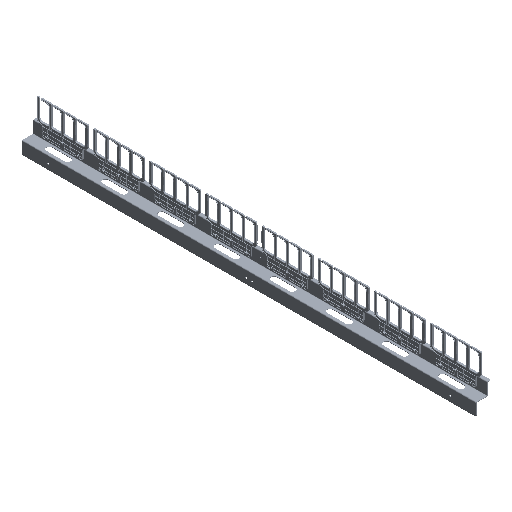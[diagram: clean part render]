
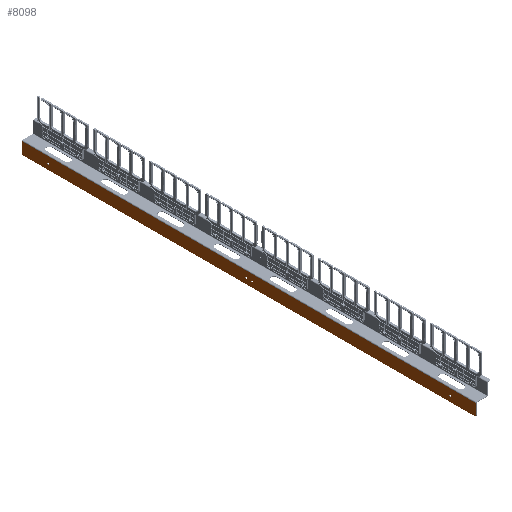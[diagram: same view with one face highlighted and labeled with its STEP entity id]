
A CAD part, isometric view. The second image highlights one B-rep face of the part: STEP entity #8098.
In plain terms, the highlighted free-form (B-spline) face has degree [1, 1] with [2, 2] control points.
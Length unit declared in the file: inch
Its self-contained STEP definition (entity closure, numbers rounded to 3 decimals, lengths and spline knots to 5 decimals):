
#550=CARTESIAN_POINT('V315',(-0.072,0.,
   0.25));
#551=VERTEX_POINT('V315',#550);
#557=CARTESIAN_POINT('V313',(-0.072,0.25,
   0.0));
#558=VERTEX_POINT('V313',#557);
#559=CARTESIAN_POINT('E483',(-0.072,0.25,
   0.0));
#560=CARTESIAN_POINT('E483',(-0.072,0.,
   0.));
#561=CARTESIAN_POINT('E483',(-0.072,0.,
   0.25));
#569=(BOUNDED_CURVE()B_SPLINE_CURVE(2,(#559,#560,#561),
   .CIRCULAR_ARC.,.F.,.U.)B_SPLINE_CURVE_WITH_KNOTS((3,3),(0.0,
   5.45415),.UNSPECIFIED.)CURVE()
   GEOMETRIC_REPRESENTATION_ITEM()RATIONAL_B_SPLINE_CURVE((1.0,
   0.707,1.0))REPRESENTATION_ITEM('E483'));
#570=EDGE_CURVE('E483',#558,#551,#569,.T.);
#672=CARTESIAN_POINT('V307',(-0.072,0.25,
   74.465));
#673=VERTEX_POINT('V307',#672);
#679=CARTESIAN_POINT('V305',(-0.072,0.,
   74.215));
#680=VERTEX_POINT('V305',#679);
#681=CARTESIAN_POINT('E463',(-0.072,0.,
   74.215));
#682=CARTESIAN_POINT('E463',(-0.072,0.,
   74.465));
#683=CARTESIAN_POINT('E463',(-0.072,0.25,
   74.465));
#691=(BOUNDED_CURVE()B_SPLINE_CURVE(2,(#681,#682,#683),
   .CIRCULAR_ARC.,.F.,.U.)B_SPLINE_CURVE_WITH_KNOTS((3,3),(0.0,
   5.45415),.UNSPECIFIED.)CURVE()
   GEOMETRIC_REPRESENTATION_ITEM()RATIONAL_B_SPLINE_CURVE((1.0,
   0.707,1.0))REPRESENTATION_ITEM('E463'));
#692=EDGE_CURVE('E463',#680,#673,#691,.T.);
#7785=CARTESIAN_POINT('V302',(-0.072,0.747,
   36.74075));
#7786=VERTEX_POINT('V302',#7785);
#7792=CARTESIAN_POINT('E314',(-0.072,0.747,
   36.74075));
#7793=CARTESIAN_POINT('E314',(-0.072,0.747,
   36.51905));
#7794=CARTESIAN_POINT('E314',(-0.072,0.939,
   36.6299));
#7795=CARTESIAN_POINT('E314',(-0.072,1.131,
   36.74075));
#7796=CARTESIAN_POINT('E314',(-0.072,0.939,
   36.8516));
#7797=CARTESIAN_POINT('E314',(-0.072,0.747,
   36.96245));
#7798=CARTESIAN_POINT('E314',(-0.072,0.747,
   36.74075));
#7806=(BOUNDED_CURVE()B_SPLINE_CURVE(2,(#7792,#7793,#7794,#7795,
   #7796,#7797,#7798),.CIRCULAR_ARC.,.T.,.U.)
   B_SPLINE_CURVE_WITH_KNOTS((3,2,2,3),(0.0,0.33333,
   0.66667,1.0),.UNSPECIFIED.)CURVE()
   GEOMETRIC_REPRESENTATION_ITEM()RATIONAL_B_SPLINE_CURVE((1.0,
   0.5,1.0,0.5,1.0,0.5,1.0)
   )REPRESENTATION_ITEM('E314'));
#7807=EDGE_CURVE('E314',#7786,#7786,#7806,.T.);
#7854=CARTESIAN_POINT('V301',(-0.072,0.747,
   4.26));
#7855=VERTEX_POINT('V301',#7854);
#7861=CARTESIAN_POINT('E313',(-0.072,0.747,
   4.26));
#7862=CARTESIAN_POINT('E313',(-0.072,0.747,
   4.0383));
#7863=CARTESIAN_POINT('E313',(-0.072,0.939,
   4.14915));
#7864=CARTESIAN_POINT('E313',(-0.072,1.131,
   4.26));
#7865=CARTESIAN_POINT('E313',(-0.072,0.939,
   4.37085));
#7866=CARTESIAN_POINT('E313',(-0.072,0.747,
   4.4817));
#7867=CARTESIAN_POINT('E313',(-0.072,0.747,
   4.26));
#7875=(BOUNDED_CURVE()B_SPLINE_CURVE(2,(#7861,#7862,#7863,#7864,
   #7865,#7866,#7867),.CIRCULAR_ARC.,.T.,.U.)
   B_SPLINE_CURVE_WITH_KNOTS((3,2,2,3),(0.0,0.33333,
   0.66667,1.0),.UNSPECIFIED.)CURVE()
   GEOMETRIC_REPRESENTATION_ITEM()RATIONAL_B_SPLINE_CURVE((1.0,
   0.5,1.0,0.5,1.0,0.5,1.0)
   )REPRESENTATION_ITEM('E313'));
#7876=EDGE_CURVE('E313',#7855,#7855,#7875,.T.);
#7923=CARTESIAN_POINT('V300',(-0.072,0.747,
   37.725));
#7924=VERTEX_POINT('V300',#7923);
#7930=CARTESIAN_POINT('E312',(-0.072,0.747,
   37.725));
#7931=CARTESIAN_POINT('E312',(-0.072,0.747,
   37.5033));
#7932=CARTESIAN_POINT('E312',(-0.072,0.939,
   37.61415));
#7933=CARTESIAN_POINT('E312',(-0.072,1.131,
   37.725));
#7934=CARTESIAN_POINT('E312',(-0.072,0.939,
   37.83585));
#7935=CARTESIAN_POINT('E312',(-0.072,0.747,
   37.9467));
#7936=CARTESIAN_POINT('E312',(-0.072,0.747,
   37.725));
#7944=(BOUNDED_CURVE()B_SPLINE_CURVE(2,(#7930,#7931,#7932,#7933,
   #7934,#7935,#7936),.CIRCULAR_ARC.,.T.,.U.)
   B_SPLINE_CURVE_WITH_KNOTS((3,2,2,3),(0.0,0.33333,
   0.66667,1.0),.UNSPECIFIED.)CURVE()
   GEOMETRIC_REPRESENTATION_ITEM()RATIONAL_B_SPLINE_CURVE((1.0,
   0.5,1.0,0.5,1.0,0.5,1.0)
   )REPRESENTATION_ITEM('E312'));
#7945=EDGE_CURVE('E312',#7924,#7924,#7944,.T.);
#7992=CARTESIAN_POINT('V299',(-0.072,0.747,
   70.205));
#7993=VERTEX_POINT('V299',#7992);
#7999=CARTESIAN_POINT('E311',(-0.072,0.747,
   70.205));
#8000=CARTESIAN_POINT('E311',(-0.072,0.747,
   69.9833));
#8001=CARTESIAN_POINT('E311',(-0.072,0.939,
   70.09415));
#8002=CARTESIAN_POINT('E311',(-0.072,1.131,
   70.205));
#8003=CARTESIAN_POINT('E311',(-0.072,0.939,
   70.31585));
#8004=CARTESIAN_POINT('E311',(-0.072,0.747,
   70.4267));
#8005=CARTESIAN_POINT('E311',(-0.072,0.747,
   70.205));
#8013=(BOUNDED_CURVE()B_SPLINE_CURVE(2,(#7999,#8000,#8001,#8002,
   #8003,#8004,#8005),.CIRCULAR_ARC.,.T.,.U.)
   B_SPLINE_CURVE_WITH_KNOTS((3,2,2,3),(0.0,0.33333,
   0.66667,1.0),.UNSPECIFIED.)CURVE()
   GEOMETRIC_REPRESENTATION_ITEM()RATIONAL_B_SPLINE_CURVE((1.0,
   0.5,1.0,0.5,1.0,0.5,1.0)
   )REPRESENTATION_ITEM('E311'));
#8014=EDGE_CURVE('E311',#7993,#7993,#8013,.T.);
#8048=CARTESIAN_POINT('E309',(-0.072,0.,
   0.25));
#8049=CARTESIAN_POINT('E309',(-0.072,0.,
   74.215));
#8050=B_SPLINE_CURVE_WITH_KNOTS('E309',1,(#8048,#8049),
   .POLYLINE_FORM.,.F.,.U.,(2,2),(0.00336,
   0.99664),.UNSPECIFIED.);
#8051=EDGE_CURVE('E309',#551,#680,#8050,.T.);
#8057=CARTESIAN_POINT('F18',(-0.072,0.,0.0)
   );
#8058=CARTESIAN_POINT('F18',(-0.072,0.,
   74.465));
#8059=CARTESIAN_POINT('F18',(-0.072,1.94,
   0.0));
#8060=CARTESIAN_POINT('F18',(-0.072,1.94,
   74.465));
#8061=B_SPLINE_SURFACE_WITH_KNOTS('F18',1,1,((#8057,#8059),(#8058,
   #8060)),.PLANE_SURF.,.F.,.F.,.U.,(2,2),(2,2),(
   0.00061,38.33795),(0.00061,
   0.99939),.UNSPECIFIED.);
#8062=ORIENTED_EDGE('E483',*,*,#570,.T.);
#8063=ORIENTED_EDGE('E309',*,*,#8051,.T.);
#8064=ORIENTED_EDGE('E463',*,*,#692,.T.);
#8065=CARTESIAN_POINT('V160',(-0.072,1.94,
   74.465));
#8066=VERTEX_POINT('V160',#8065);
#8067=CARTESIAN_POINT('E310',(-0.072,0.25,
   74.465));
#8068=CARTESIAN_POINT('E310',(-0.072,1.94,
   74.465));
#8069=B_SPLINE_CURVE_WITH_KNOTS('E310',1,(#8067,#8068),
   .POLYLINE_FORM.,.F.,.U.,(2,2),(0.12887,1.0),
   .UNSPECIFIED.);
#8070=EDGE_CURVE('E310',#673,#8066,#8069,.T.);
#8071=ORIENTED_EDGE('E310',*,*,#8070,.T.);
#8072=CARTESIAN_POINT('V163',(-0.072,1.94,
   0.0));
#8073=VERTEX_POINT('V163',#8072);
#8074=CARTESIAN_POINT('E169',(-0.072,1.94,
   0.0));
#8075=CARTESIAN_POINT('E169',(-0.072,1.94,
   74.465));
#8076=QUASI_UNIFORM_CURVE('E169',1,(#8074,#8075),.POLYLINE_FORM.,.F.,
   .U.);
#8077=EDGE_CURVE('E169',#8073,#8066,#8076,.T.);
#8078=ORIENTED_EDGE('E169',*,*,#8077,.F.);
#8079=CARTESIAN_POINT('E308',(-0.072,1.94,
   0.0));
#8080=CARTESIAN_POINT('E308',(-0.072,0.25,
   0.0));
#8081=B_SPLINE_CURVE_WITH_KNOTS('E308',1,(#8079,#8080),
   .POLYLINE_FORM.,.F.,.U.,(2,2),(0.0,0.87113),
   .UNSPECIFIED.);
#8082=EDGE_CURVE('E308',#8073,#558,#8081,.T.);
#8083=ORIENTED_EDGE('E308',*,*,#8082,.T.);
#8084=EDGE_LOOP('F18',(#8062,#8063,#8064,#8071,#8078,#8083));
#8085=FACE_OUTER_BOUND('F18',#8084,.T.);
#8086=ORIENTED_EDGE('E311',*,*,#8014,.T.);
#8087=EDGE_LOOP('F18',(#8086));
#8088=FACE_BOUND('F18',#8087,.T.);
#8089=ORIENTED_EDGE('E312',*,*,#7945,.T.);
#8090=EDGE_LOOP('F18',(#8089));
#8091=FACE_BOUND('F18',#8090,.T.);
#8092=ORIENTED_EDGE('E313',*,*,#7876,.T.);
#8093=EDGE_LOOP('F18',(#8092));
#8094=FACE_BOUND('F18',#8093,.T.);
#8095=ORIENTED_EDGE('E314',*,*,#7807,.T.);
#8096=EDGE_LOOP('F18',(#8095));
#8097=FACE_BOUND('F18',#8096,.T.);
#8098=ADVANCED_FACE('F18',(#8085,#8088,#8091,#8094,#8097),#8061,.T.
   );
